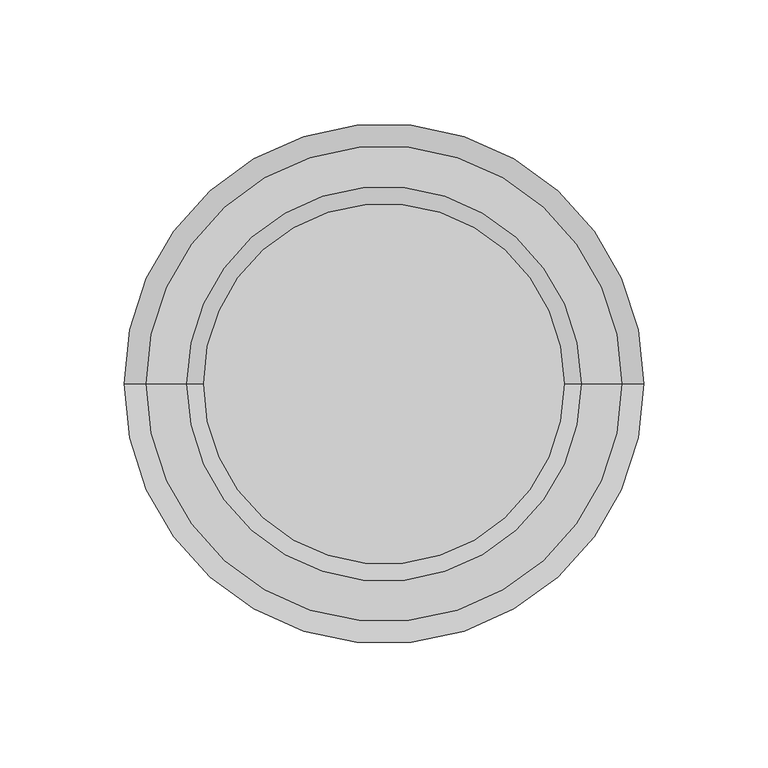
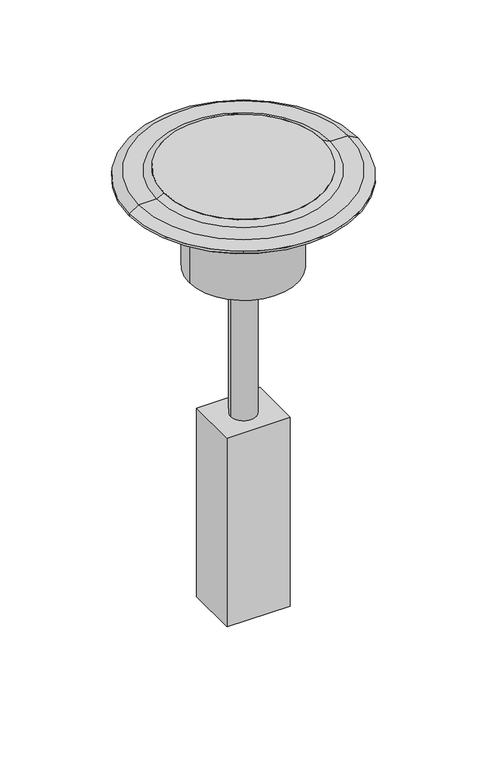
"""IFC4 building model written with IfcOpenShell, lengths in millimetres: proxy geometry, Poke_Thru-Assembled_Unit-Wiremold-RC4_Series : Insert Assembly with Disposable Plate."""

from ifc_helpers import new_model, si_unit, point, frame, origin, origin_with_axes, origin_2d, place, context, project, spatial, polyline, circle_curve, trimmed, segment, composite_curve, outline, extrude, source, transform, mapped, element, save
from ifc_brep_helpers import plane_surface, cylinder_surface, revolved_surface, advanced_brep


def electrical_fixtures_3518aa85(model_context):
    return source(origin(), model_context, "Body", "SolidModel", [
        extrude(outline(composite_curve([segment(trimmed(circle_curve(origin_2d(), 72.7202), [point((-72.7202, 0.0))], [point((72.7202, 0.0))], False, "CARTESIAN"), True, "CONTINUOUS"), segment(trimmed(circle_curve(origin_2d(), 72.7202), [point((72.7202, 0.0))], [point((-72.7202, 0.0))], False, "CARTESIAN"), True, "CONTINUOUS")], self_intersect=False)), origin_with_axes(), (0.0, 0.0, 1.0), 10.795),
        extrude(outline(polyline([(-28.94965, 24.11222), (28.94965, 24.11222), (28.94965, -24.11222), (-28.94965, -24.11222), (-28.94965, 24.11222)])), frame((0.0, 0.0, -409.9052), z_axis=(0.0, 0.0, 1.0), x_axis=(1.0, 0.0, 0.0)), (0.0, 0.0, 1.0), 182.5752),
        extrude(outline(composite_curve([segment(trimmed(circle_curve(origin_2d(), 11.67511), [point((11.67511, 0.0))], [point((-11.67511, 0.0))], False, "CARTESIAN"), True, "CONTINUOUS"), segment(trimmed(circle_curve(origin_2d(), 11.67511), [point((-11.67511, 0.0))], [point((11.67511, 0.0))], False, "CARTESIAN"), True, "CONTINUOUS")], self_intersect=False)), frame((0.0, 0.0, -227.33), z_axis=(0.0, 0.0, 1.0), x_axis=(1.0, 0.0, 0.0)), (0.0, 0.0, 1.0), 143.1798),
        extrude(outline(composite_curve([segment(trimmed(circle_curve(origin_2d(), 49.5046), [point((49.5046, 0.0))], [point((-49.5046, 0.0))], False, "CARTESIAN"), True, "CONTINUOUS"), segment(trimmed(circle_curve(origin_2d(), 49.5046), [point((-49.5046, 0.0))], [point((49.5046, 0.0))], False, "CARTESIAN"), True, "CONTINUOUS")], self_intersect=False)), frame((0.0, 0.0, -84.1502), z_axis=(0.0, 0.0, 1.0), x_axis=(1.0, 0.0, 0.0)), (0.0, 0.0, 1.0), 84.1502),
        advanced_brep(
        [(104.775, 0.0, 0.0), (-104.775, 0.0, 0.0), (-104.775, 0.0, 1.996072), (104.775, 0.0, 1.996072), (93.8998227, 0.0, 0.0), (-93.8998227, 0.0, 0.0), (93.8998227, 0.0, -7.9502), (-93.8998227, 0.0, -7.9502), (72.7134422, 0.0, -7.9502), (-72.7134422, 0.0, -7.9502), (79.493084, 0.0, 7.3406), (-79.493084, 0.0, 7.3406), (-72.7134422, 0.0, 10.795), (72.7134422, 0.0, 10.795), (95.8802118, 0.0, 7.3406), (-95.8802118, 0.0, 7.3406)],
        [
            (0, 1, circle_curve(frame((0.0, 0.0, 0.0), z_axis=(0.0, 0.0, 1.0), x_axis=(-1.0, 0.0, 0.0)), 104.775)),
            (1, 2),
            (2, 3, circle_curve(frame((0.0, 0.0, 1.996072), z_axis=(0.0, 0.0, -1.0), x_axis=(-1.0, 0.0, 0.0)), 104.775)),
            (3, 0),
            (1, 0, circle_curve(frame((0.0, 0.0, 0.0), z_axis=(0.0, 0.0, 1.0), x_axis=(-1.0, 0.0, 0.0)), 104.775)),
            (3, 2, circle_curve(frame((0.0, 0.0, 1.996072), z_axis=(0.0, 0.0, -1.0), x_axis=(-1.0, 0.0, 0.0)), 104.775)),
            (4, 5, circle_curve(frame((0.0, 0.0, 0.0), z_axis=(0.0, 0.0, 1.0), x_axis=(-1.0, 0.0, 0.0)), 93.8998227)),
            (5, 1),
            (0, 4),
            (5, 4, circle_curve(frame((0.0, 0.0, 0.0), z_axis=(0.0, 0.0, 1.0), x_axis=(-1.0, 0.0, 0.0)), 93.8998227)),
            (6, 7, circle_curve(frame((0.0, 0.0, -7.9502), z_axis=(0.0, 0.0, 1.0), x_axis=(-1.0, 0.0, 0.0)), 93.8998227)),
            (7, 5),
            (4, 6),
            (7, 6, circle_curve(frame((0.0, 0.0, -7.9502), z_axis=(0.0, 0.0, 1.0), x_axis=(-1.0, 0.0, 0.0)), 93.8998227)),
            (8, 9, circle_curve(frame((0.0, 0.0, -7.9502), z_axis=(0.0, 0.0, 1.0), x_axis=(-1.0, 0.0, 0.0)), 72.7134422)),
            (9, 7),
            (6, 8),
            (9, 8, circle_curve(frame((0.0, 0.0, -7.9502), z_axis=(0.0, 0.0, 1.0), x_axis=(-1.0, 0.0, 0.0)), 72.7134422)),
            (10, 11, circle_curve(frame((0.0, 0.0, 7.3406), z_axis=(0.0, 0.0, 1.0), x_axis=(-1.0, 0.0, 0.0)), 79.493084)),
            (11, 12),
            (12, 13, circle_curve(frame((0.0, 0.0, 10.795), z_axis=(0.0, 0.0, -1.0), x_axis=(-1.0, 0.0, 0.0)), 72.7134422)),
            (13, 10),
            (11, 10, circle_curve(frame((0.0, 0.0, 7.3406), z_axis=(0.0, 0.0, 1.0), x_axis=(-1.0, 0.0, 0.0)), 79.493084)),
            (13, 12, circle_curve(frame((0.0, 0.0, 10.795), z_axis=(0.0, 0.0, -1.0), x_axis=(-1.0, 0.0, 0.0)), 72.7134422)),
            (14, 15, circle_curve(frame((0.0, 0.0, 7.3406), z_axis=(0.0, 0.0, 1.0), x_axis=(-1.0, 0.0, 0.0)), 95.8802118)),
            (15, 11),
            (10, 14),
            (15, 14, circle_curve(frame((0.0, 0.0, 7.3406), z_axis=(0.0, 0.0, 1.0), x_axis=(-1.0, 0.0, 0.0)), 95.8802118)),
            (2, 15),
            (14, 3),
            (12, 9),
            (8, 13),
        ],
        [
            cylinder_surface(frame((0.0, 0.0, 9.9544873), z_axis=(0.0, 0.0, -1.0), x_axis=(-1.0, 0.0, 0.0)), 104.775),
            plane_surface(frame((0.0, 0.0, 0.0), z_axis=(0.0, 0.0, -1.0), x_axis=(-1.0, 0.0, 0.0))),
            cylinder_surface(frame((0.0, 0.0, 9.9544873), z_axis=(0.0, 0.0, -1.0), x_axis=(-1.0, 0.0, 0.0)), 93.8998227),
            plane_surface(frame((0.0, 0.0, -7.9502), z_axis=(0.0, 0.0, -1.0), x_axis=(-1.0, 0.0, 0.0))),
            revolved_surface(polyline([(-72.7134422, 0.0, 10.795), (-79.493084, 0.0, 7.3406)]), (0.0, 0.0, 9.9544873), (0.0, 0.0, -1.0)),
            plane_surface(frame((0.0, 0.0, 7.3406), z_axis=(0.0, 0.0, 1.0), x_axis=(-1.0, 0.0, 0.0))),
            revolved_surface(polyline([(-95.8802118, 0.0, 7.3406), (-104.775, 0.0, 1.996072)]), (0.0, 0.0, 9.9544873), (0.0, 0.0, -1.0)),
            revolved_surface(polyline([(-72.7134422, 0.0, -7.950199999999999), (-72.7134422, 0.0, 10.795)]), (0.0, 0.0, 9.9544873), (0.0, 0.0, -1.0)),
        ],
        [
            (0, [[1, 2, 3, 4]]),
            (0, [[5, -4, 6, -2]]),
            (1, [[7, 8, -1, 9]]),
            (1, [[10, -9, -5, -8]]),
            (2, [[11, 12, -7, 13]]),
            (2, [[14, -13, -10, -12]]),
            (3, [[15, 16, -11, 17]]),
            (3, [[18, -17, -14, -16]]),
            (4, [[19, 20, 21, 22]]),
            (4, [[23, -22, 24, -20]]),
            (5, [[25, 26, -19, 27]]),
            (5, [[28, -27, -23, -26]]),
            (6, [[-3, 29, -25, 30]]),
            (6, [[-6, -30, -28, -29]]),
            (7, [[-21, 31, -15, 32]]),
            (7, [[-24, -32, -18, -31]]),
        ],
    ),
    ])


if __name__ == "__main__":
    model = new_model("IFC4")
    model_context = context("Model", 3, world=origin())
    ifc_project = project(units=[si_unit("LENGTHUNIT", "METRE", prefix="MILLI")], contexts=[model_context])
    site = spatial("IfcSite", under=ifc_project)
    building = spatial("IfcBuilding", under=site)
    placement = place(None, origin())
    electrical_fixtures_shape = electrical_fixtures_3518aa85(model_context)
    element("IfcBuildingElementProxy", 1, Name="Poke_Thru-Assembled_Unit-Wiremold-RC4_Series : Insert Assembly with Disposable Plate", ObjectType="Poke_Thru-Assembled_Unit-Wiremold-RC4_Series : Insert Assembly with Disposable Plate", at=placement, inside=building, context=model_context, shape_type="MappedRepresentation", body=[
        mapped(electrical_fixtures_shape, transform((0.0, 0.0, 0.0), x_axis=(1.0, 0.0, 0.0), y_axis=(0.0, 1.0, 0.0), z_axis=(0.0, 0.0, 1.0))),
    ])
    save(model, "model.ifc")
